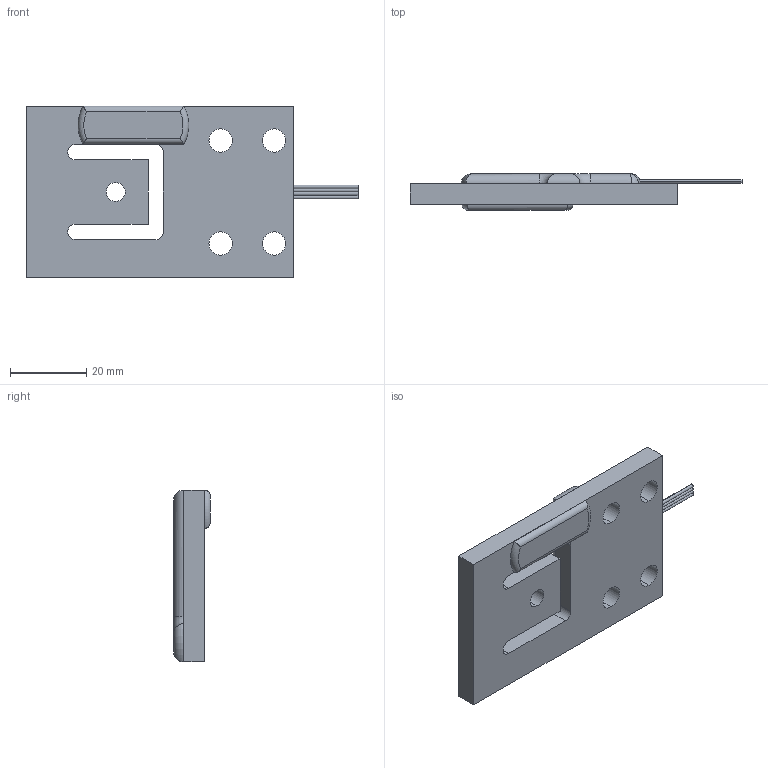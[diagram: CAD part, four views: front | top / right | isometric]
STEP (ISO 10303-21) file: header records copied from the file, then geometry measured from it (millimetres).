
FILE_DESCRIPTION (( 'STEP AP203' ), '1' );
FILE_NAME ('FHA-150KG.STEP', '2024-07-18T00:30:02', ( '' ), ( '' ), 'SwSTEP 2.0', 'SolidWorks 2019', '' );
FILE_SCHEMA (( 'CONFIG_CONTROL_DESIGN' ));
Length unit declared in the file: millimetre
Products named in the file (1): FHA-150KG
Bounding box: 87 x 9.6 x 45 mm (x, y, z)
Volume: 17321.8 mm3; surface area: 10783.6 mm2
Topology: 7 solids, 7 shells, 65 faces, 153 edges, 100 vertices
Faces by surface type: cylinder 32, plane 24, torus 7, bspline 2
Entity records: 2164 total; most frequent: CARTESIAN_POINT 554, DIRECTION 332, ORIENTED_EDGE 302, EDGE_CURVE 151, AXIS2_PLACEMENT_3D 130, VERTEX_POINT 100, EDGE_LOOP 77, LINE 72
